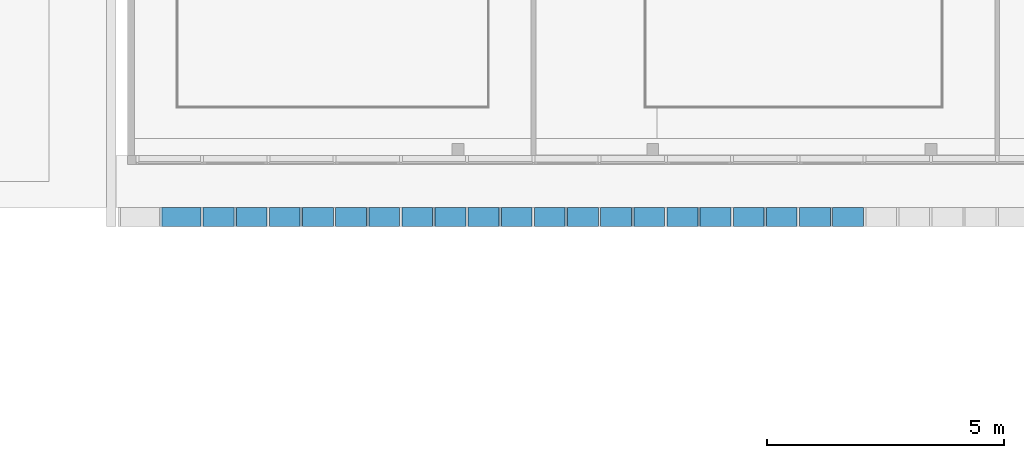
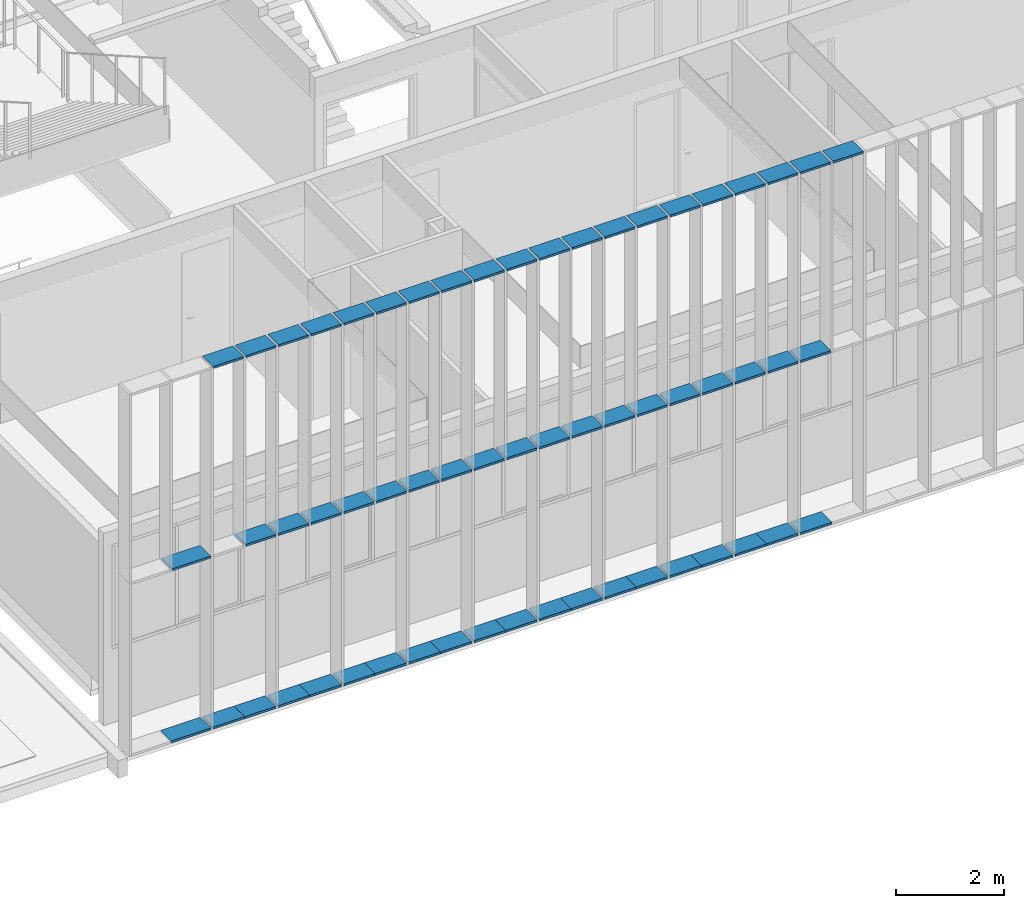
# One storey, part 23 of 106: 59 members, 1 element without a shape of its own.
"""IFC2X3 building model written with IfcOpenShell, lengths in centimetres."""

from ifc_helpers import new_model, entity, si_unit, converted_unit, derived_unit, direction, frame, origin, origin_2d_with_axis, place, context, subcontext, project, spatial, rectangle, extrude, source, transform, mapped, material, type_object, type_shapes, element, aggregate, save


model = new_model("IFC2X3")

# Units and contexts
model_context = context("Model", 3, precision=0.001, world=origin(), true_north=direction((6.12303176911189e-17, 1.0)))
body_context = subcontext(model_context, "Body", "Model", "MODEL_VIEW")
ifc_project = project(units=[si_unit("LENGTHUNIT", "METRE", prefix="CENTI"), si_unit("AREAUNIT", "SQUARE_METRE"), si_unit("VOLUMEUNIT", "CUBIC_METRE"), converted_unit("PLANEANGLEUNIT", "DEGREE", entity("IfcRatioMeasure", 0.0174532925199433), si_unit("PLANEANGLEUNIT", "RADIAN"), dimensions=[0, 0, 0, 0, 0, 0, 0]), si_unit("MASSUNIT", "GRAM", prefix="KILO"), derived_unit("MASSDENSITYUNIT", [(si_unit("MASSUNIT", "GRAM", prefix="KILO"), 1), (si_unit("LENGTHUNIT", "METRE"), -3)]), si_unit("TIMEUNIT", "SECOND"), si_unit("FREQUENCYUNIT", "HERTZ"), si_unit("THERMODYNAMICTEMPERATUREUNIT", "DEGREE_CELSIUS"), derived_unit("THERMALTRANSMITTANCEUNIT", [(si_unit("MASSUNIT", "GRAM", prefix="KILO"), 1), (si_unit("THERMODYNAMICTEMPERATUREUNIT", "KELVIN"), -1), (si_unit("TIMEUNIT", "SECOND"), -3)]), derived_unit("VOLUMETRICFLOWRATEUNIT", [(si_unit("LENGTHUNIT", "METRE"), 3), (si_unit("TIMEUNIT", "SECOND"), -1)]), si_unit("ELECTRICCURRENTUNIT", "AMPERE"), si_unit("ELECTRICVOLTAGEUNIT", "VOLT"), si_unit("POWERUNIT", "WATT"), si_unit("FORCEUNIT", "NEWTON", prefix="KILO"), si_unit("ILLUMINANCEUNIT", "LUX"), si_unit("LUMINOUSFLUXUNIT", "LUMEN"), si_unit("LUMINOUSINTENSITYUNIT", "CANDELA"), derived_unit("USERDEFINED", [(si_unit("MASSUNIT", "GRAM", prefix="KILO"), -1), (si_unit("LENGTHUNIT", "METRE"), -2), (si_unit("TIMEUNIT", "SECOND"), 3), (si_unit("LUMINOUSFLUXUNIT", "LUMEN"), 1)]), derived_unit("LINEARVELOCITYUNIT", [(si_unit("LENGTHUNIT", "METRE"), 1), (si_unit("TIMEUNIT", "SECOND"), -1)]), si_unit("PRESSUREUNIT", "PASCAL"), derived_unit("USERDEFINED", [(si_unit("LENGTHUNIT", "METRE"), -2), (si_unit("MASSUNIT", "GRAM", prefix="KILO"), 1), (si_unit("TIMEUNIT", "SECOND"), -2)])], contexts=[model_context])

# Site, building, storey
site_placement = place(None, frame((-2781.94577612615, 7442.24238424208, 0.0)))
site = spatial("IfcSite", under=ifc_project, at=site_placement, Name="Default", CompositionType="ELEMENT")
building_placement = place(site_placement, origin())
building = spatial("IfcBuilding", under=site, at=building_placement, CompositionType="ELEMENT")
storey_placement = place(building_placement, frame((0.0, 0.0, 422.0)))
storey = spatial("IfcBuildingStorey", under=building, at=storey_placement, Name="Toiture - Cuisine", CompositionType="ELEMENT", Elevation=421.999999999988)

# Curtain wall, members
curtain_wall_type = type_object("IfcCurtainWallType", Name="Mur-rideau:Epines - 400x30mm", PredefinedType="NOTDEFINED")
curtain_wall_placement = place(building_placement, origin())
curtain_wall = element("IfcCurtainWall", 1, at=curtain_wall_placement, inside=storey, type_object=curtain_wall_type, Name="Mur-rideau:Epines - 400x30mm", ObjectType="Mur-rideau:Epines - 400x30mm")
ifc_material = material(Name="Aluminium")
member_type_1 = type_object("IfcMemberType", Name="Epine sud (400x50 mm)", PredefinedType="MEMBER")
shared_shape_1 = source(origin(), body_context, "Body", "SweptSolid", [
    extrude(rectangle(XDim=40.0, YDim=5.0, at=origin_2d_with_axis()), frame((-2.5, 0.0, -65.0), z_axis=(0.0, 0.0, 1.0), x_axis=(0.0, -1.0, 0.0)), (0.0, 0.0, 1.0), 64.9999999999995),
])
type_shapes(member_type_1, [shared_shape_1])
member_1_placement = place(building_placement, frame((-4472.99987760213, -3160.31349958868, 1176.0), z_axis=(1.0, 0.0, 0.0), x_axis=(0.0, 0.0, 1.0)))
member_1 = element("IfcMember", 2, at=member_1_placement, type_object=member_type_1, material=ifc_material, Name="Meneau rectangulaire:Epine sud (400x50 mm)", ObjectType="Meneau rectangulaire:Epine sud (400x50 mm)", context=body_context, shape_type="MappedRepresentation", body=[
    mapped(shared_shape_1, transform((0.0, 0.0, 0.0), scale=1.0)),
])
member_2_placement = place(building_placement, frame((-4332.99987760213, -3160.31349958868, 1176.0), z_axis=(1.0, 0.0, 0.0), x_axis=(0.0, 0.0, 1.0)))
member_2 = element("IfcMember", 3, at=member_2_placement, type_object=member_type_1, material=ifc_material, Name="Meneau rectangulaire:Epine sud (400x50 mm)", ObjectType="Meneau rectangulaire:Epine sud (400x50 mm)", context=body_context, shape_type="MappedRepresentation", body=[
    mapped(shared_shape_1, transform((0.0, 0.0, 0.0), scale=1.0)),
])
member_3_placement = place(building_placement, frame((-4192.99987760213, -3160.31349958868, 1176.0), z_axis=(1.0, 0.0, 0.0), x_axis=(0.0, 0.0, 1.0)))
member_3 = element("IfcMember", 4, at=member_3_placement, type_object=member_type_1, material=ifc_material, Name="Meneau rectangulaire:Epine sud (400x50 mm)", ObjectType="Meneau rectangulaire:Epine sud (400x50 mm)", context=body_context, shape_type="MappedRepresentation", body=[
    mapped(shared_shape_1, transform((0.0, 0.0, 0.0), scale=1.0)),
])
member_4_placement = place(building_placement, frame((-4052.99987760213, -3160.31349958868, 1176.0), z_axis=(1.0, 0.0, 0.0), x_axis=(0.0, 0.0, 1.0)))
member_4 = element("IfcMember", 5, at=member_4_placement, type_object=member_type_1, material=ifc_material, Name="Meneau rectangulaire:Epine sud (400x50 mm)", ObjectType="Meneau rectangulaire:Epine sud (400x50 mm)", context=body_context, shape_type="MappedRepresentation", body=[
    mapped(shared_shape_1, transform((0.0, 0.0, 0.0), scale=1.0)),
])
member_5_placement = place(building_placement, frame((-3912.99987760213, -3160.31349958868, 1176.0), z_axis=(1.0, 0.0, 0.0), x_axis=(0.0, 0.0, 1.0)))
member_5 = element("IfcMember", 6, at=member_5_placement, type_object=member_type_1, material=ifc_material, Name="Meneau rectangulaire:Epine sud (400x50 mm)", ObjectType="Meneau rectangulaire:Epine sud (400x50 mm)", context=body_context, shape_type="MappedRepresentation", body=[
    mapped(shared_shape_1, transform((0.0, 0.0, 0.0), scale=1.0)),
])
member_6_placement = place(building_placement, frame((-3772.99987760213, -3160.31349958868, 1176.0), z_axis=(1.0, 0.0, 0.0), x_axis=(0.0, 0.0, 1.0)))
member_6 = element("IfcMember", 7, at=member_6_placement, type_object=member_type_1, material=ifc_material, Name="Meneau rectangulaire:Epine sud (400x50 mm)", ObjectType="Meneau rectangulaire:Epine sud (400x50 mm)", context=body_context, shape_type="MappedRepresentation", body=[
    mapped(shared_shape_1, transform((0.0, 0.0, 0.0), scale=1.0)),
])
member_7_placement = place(building_placement, frame((-3632.99987760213, -3160.31349958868, 1176.0), z_axis=(1.0, 0.0, 0.0), x_axis=(0.0, 0.0, 1.0)))
member_7 = element("IfcMember", 8, at=member_7_placement, type_object=member_type_1, material=ifc_material, Name="Meneau rectangulaire:Epine sud (400x50 mm)", ObjectType="Meneau rectangulaire:Epine sud (400x50 mm)", context=body_context, shape_type="MappedRepresentation", body=[
    mapped(shared_shape_1, transform((0.0, 0.0, 0.0), scale=1.0)),
])
member_8_placement = place(building_placement, frame((-3492.99987760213, -3160.31349958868, 1176.0), z_axis=(1.0, 0.0, 0.0), x_axis=(0.0, 0.0, 1.0)))
member_8 = element("IfcMember", 9, at=member_8_placement, type_object=member_type_1, material=ifc_material, Name="Meneau rectangulaire:Epine sud (400x50 mm)", ObjectType="Meneau rectangulaire:Epine sud (400x50 mm)", context=body_context, shape_type="MappedRepresentation", body=[
    mapped(shared_shape_1, transform((0.0, 0.0, 0.0), scale=1.0)),
])
member_9_placement = place(building_placement, frame((-3352.99987760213, -3160.31349958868, 1176.0), z_axis=(1.0, 0.0, 0.0), x_axis=(0.0, 0.0, 1.0)))
member_9 = element("IfcMember", 10, at=member_9_placement, type_object=member_type_1, material=ifc_material, Name="Meneau rectangulaire:Epine sud (400x50 mm)", ObjectType="Meneau rectangulaire:Epine sud (400x50 mm)", context=body_context, shape_type="MappedRepresentation", body=[
    mapped(shared_shape_1, transform((0.0, 0.0, 0.0), scale=1.0)),
])
member_10_placement = place(building_placement, frame((-3212.99987760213, -3160.31349958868, 1176.0), z_axis=(1.0, 0.0, 0.0), x_axis=(0.0, 0.0, 1.0)))
member_10 = element("IfcMember", 11, at=member_10_placement, type_object=member_type_1, material=ifc_material, Name="Meneau rectangulaire:Epine sud (400x50 mm)", ObjectType="Meneau rectangulaire:Epine sud (400x50 mm)", context=body_context, shape_type="MappedRepresentation", body=[
    mapped(shared_shape_1, transform((0.0, 0.0, 0.0), scale=1.0)),
])
member_11_placement = place(building_placement, frame((-4542.99987760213, -3160.31349958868, 1176.0), z_axis=(1.0, 0.0, 0.0), x_axis=(0.0, 0.0, 1.0)))
member_11 = element("IfcMember", 12, at=member_11_placement, type_object=member_type_1, material=ifc_material, Name="Meneau rectangulaire:Epine sud (400x50 mm)", ObjectType="Meneau rectangulaire:Epine sud (400x50 mm)", context=body_context, shape_type="MappedRepresentation", body=[
    mapped(shared_shape_1, transform((0.0, 0.0, 0.0), scale=1.0)),
])
member_12_placement = place(building_placement, frame((-4402.99987760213, -3160.31349958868, 1176.0), z_axis=(1.0, 0.0, 0.0), x_axis=(0.0, 0.0, 1.0)))
member_12 = element("IfcMember", 13, at=member_12_placement, type_object=member_type_1, material=ifc_material, Name="Meneau rectangulaire:Epine sud (400x50 mm)", ObjectType="Meneau rectangulaire:Epine sud (400x50 mm)", context=body_context, shape_type="MappedRepresentation", body=[
    mapped(shared_shape_1, transform((0.0, 0.0, 0.0), scale=1.0)),
])
member_13_placement = place(building_placement, frame((-4262.99987760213, -3160.31349958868, 1176.0), z_axis=(1.0, 0.0, 0.0), x_axis=(0.0, 0.0, 1.0)))
member_13 = element("IfcMember", 14, at=member_13_placement, type_object=member_type_1, material=ifc_material, Name="Meneau rectangulaire:Epine sud (400x50 mm)", ObjectType="Meneau rectangulaire:Epine sud (400x50 mm)", context=body_context, shape_type="MappedRepresentation", body=[
    mapped(shared_shape_1, transform((0.0, 0.0, 0.0), scale=1.0)),
])
member_14_placement = place(building_placement, frame((-4122.99987760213, -3160.31349958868, 1176.0), z_axis=(1.0, 0.0, 0.0), x_axis=(0.0, 0.0, 1.0)))
member_14 = element("IfcMember", 15, at=member_14_placement, type_object=member_type_1, material=ifc_material, Name="Meneau rectangulaire:Epine sud (400x50 mm)", ObjectType="Meneau rectangulaire:Epine sud (400x50 mm)", context=body_context, shape_type="MappedRepresentation", body=[
    mapped(shared_shape_1, transform((0.0, 0.0, 0.0), scale=1.0)),
])
member_15_placement = place(building_placement, frame((-3982.99987760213, -3160.31349958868, 1176.0), z_axis=(1.0, 0.0, 0.0), x_axis=(0.0, 0.0, 1.0)))
member_15 = element("IfcMember", 16, at=member_15_placement, type_object=member_type_1, material=ifc_material, Name="Meneau rectangulaire:Epine sud (400x50 mm)", ObjectType="Meneau rectangulaire:Epine sud (400x50 mm)", context=body_context, shape_type="MappedRepresentation", body=[
    mapped(shared_shape_1, transform((0.0, 0.0, 0.0), scale=1.0)),
])
member_16_placement = place(building_placement, frame((-3842.99987760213, -3160.31349958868, 1176.0), z_axis=(1.0, 0.0, 0.0), x_axis=(0.0, 0.0, 1.0)))
member_16 = element("IfcMember", 17, at=member_16_placement, type_object=member_type_1, material=ifc_material, Name="Meneau rectangulaire:Epine sud (400x50 mm)", ObjectType="Meneau rectangulaire:Epine sud (400x50 mm)", context=body_context, shape_type="MappedRepresentation", body=[
    mapped(shared_shape_1, transform((0.0, 0.0, 0.0), scale=1.0)),
])
member_17_placement = place(building_placement, frame((-3702.99987760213, -3160.31349958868, 1176.0), z_axis=(1.0, 0.0, 0.0), x_axis=(0.0, 0.0, 1.0)))
member_17 = element("IfcMember", 18, at=member_17_placement, type_object=member_type_1, material=ifc_material, Name="Meneau rectangulaire:Epine sud (400x50 mm)", ObjectType="Meneau rectangulaire:Epine sud (400x50 mm)", context=body_context, shape_type="MappedRepresentation", body=[
    mapped(shared_shape_1, transform((0.0, 0.0, 0.0), scale=1.0)),
])
member_18_placement = place(building_placement, frame((-3562.99987760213, -3160.31349958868, 1176.0), z_axis=(1.0, 0.0, 0.0), x_axis=(0.0, 0.0, 1.0)))
member_18 = element("IfcMember", 19, at=member_18_placement, type_object=member_type_1, material=ifc_material, Name="Meneau rectangulaire:Epine sud (400x50 mm)", ObjectType="Meneau rectangulaire:Epine sud (400x50 mm)", context=body_context, shape_type="MappedRepresentation", body=[
    mapped(shared_shape_1, transform((0.0, 0.0, 0.0), scale=1.0)),
])
member_19_placement = place(building_placement, frame((-3422.99987760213, -3160.31349958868, 1176.0), z_axis=(1.0, 0.0, 0.0), x_axis=(0.0, 0.0, 1.0)))
member_19 = element("IfcMember", 20, at=member_19_placement, type_object=member_type_1, material=ifc_material, Name="Meneau rectangulaire:Epine sud (400x50 mm)", ObjectType="Meneau rectangulaire:Epine sud (400x50 mm)", context=body_context, shape_type="MappedRepresentation", body=[
    mapped(shared_shape_1, transform((0.0, 0.0, 0.0), scale=1.0)),
])
member_20_placement = place(building_placement, frame((-3282.99987760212, -3160.31349958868, 1176.0), z_axis=(1.0, 0.0, 0.0), x_axis=(0.0, 0.0, 1.0)))
member_20 = element("IfcMember", 21, at=member_20_placement, type_object=member_type_1, material=ifc_material, Name="Meneau rectangulaire:Epine sud (400x50 mm)", ObjectType="Meneau rectangulaire:Epine sud (400x50 mm)", context=body_context, shape_type="MappedRepresentation", body=[
    mapped(shared_shape_1, transform((0.0, 0.0, 0.0), scale=1.0)),
])
member_type_2 = type_object("IfcMemberType", Name="Epine sud (400x50 mm)", PredefinedType="MEMBER")
shared_shape_2 = source(origin(), body_context, "Body", "SweptSolid", [
    extrude(rectangle(XDim=40.0, YDim=5.0, at=origin_2d_with_axis()), frame((-2.5, 0.0, -67.4999999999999), z_axis=(0.0, 0.0, 1.0), x_axis=(0.0, -1.0, 0.0)), (0.0, 0.0, 1.0), 67.5000000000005),
])
type_shapes(member_type_2, [shared_shape_2])
member_21_placement = place(building_placement, frame((-4467.99987760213, -3160.31349958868, 353.0), z_axis=(-1.0, 0.0, 0.0), x_axis=(0.0, 0.0, -1.0)))
member_21 = element("IfcMember", 22, at=member_21_placement, type_object=member_type_2, material=ifc_material, Name="Meneau rectangulaire:Epine sud (400x50 mm)", ObjectType="Meneau rectangulaire:Epine sud (400x50 mm)", context=body_context, shape_type="MappedRepresentation", body=[
    mapped(shared_shape_2, transform((0.0, 0.0, 0.0), scale=1.0)),
])
member_22_placement = place(building_placement, frame((-4327.99987760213, -3160.31349958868, 353.0), z_axis=(-1.0, 0.0, 0.0), x_axis=(0.0, 0.0, -1.0)))
member_22 = element("IfcMember", 23, at=member_22_placement, type_object=member_type_2, material=ifc_material, Name="Meneau rectangulaire:Epine sud (400x50 mm)", ObjectType="Meneau rectangulaire:Epine sud (400x50 mm)", context=body_context, shape_type="MappedRepresentation", body=[
    mapped(shared_shape_2, transform((0.0, 0.0, 0.0), scale=1.0)),
])
member_23_placement = place(building_placement, frame((-4187.99987760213, -3160.31349958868, 353.0), z_axis=(-1.0, 0.0, 0.0), x_axis=(0.0, 0.0, -1.0)))
member_23 = element("IfcMember", 24, at=member_23_placement, type_object=member_type_2, material=ifc_material, Name="Meneau rectangulaire:Epine sud (400x50 mm)", ObjectType="Meneau rectangulaire:Epine sud (400x50 mm)", context=body_context, shape_type="MappedRepresentation", body=[
    mapped(shared_shape_2, transform((0.0, 0.0, 0.0), scale=1.0)),
])
member_24_placement = place(building_placement, frame((-4047.99987760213, -3160.31349958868, 353.0), z_axis=(-1.0, 0.0, 0.0), x_axis=(0.0, 0.0, -1.0)))
member_24 = element("IfcMember", 25, at=member_24_placement, type_object=member_type_2, material=ifc_material, Name="Meneau rectangulaire:Epine sud (400x50 mm)", ObjectType="Meneau rectangulaire:Epine sud (400x50 mm)", context=body_context, shape_type="MappedRepresentation", body=[
    mapped(shared_shape_2, transform((0.0, 0.0, 0.0), scale=1.0)),
])
member_25_placement = place(building_placement, frame((-3907.99987760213, -3160.31349958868, 353.0), z_axis=(-1.0, 0.0, 0.0), x_axis=(0.0, 0.0, -1.0)))
member_25 = element("IfcMember", 26, at=member_25_placement, type_object=member_type_2, material=ifc_material, Name="Meneau rectangulaire:Epine sud (400x50 mm)", ObjectType="Meneau rectangulaire:Epine sud (400x50 mm)", context=body_context, shape_type="MappedRepresentation", body=[
    mapped(shared_shape_2, transform((0.0, 0.0, 0.0), scale=1.0)),
])
member_26_placement = place(building_placement, frame((-3767.99987760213, -3160.31349958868, 353.0), z_axis=(-1.0, 0.0, 0.0), x_axis=(0.0, 0.0, -1.0)))
member_26 = element("IfcMember", 27, at=member_26_placement, type_object=member_type_2, material=ifc_material, Name="Meneau rectangulaire:Epine sud (400x50 mm)", ObjectType="Meneau rectangulaire:Epine sud (400x50 mm)", context=body_context, shape_type="MappedRepresentation", body=[
    mapped(shared_shape_2, transform((0.0, 0.0, 0.0), scale=1.0)),
])
member_27_placement = place(building_placement, frame((-4607.99987760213, -3160.31349958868, 353.0), z_axis=(-1.0, 0.0, 0.0), x_axis=(0.0, 0.0, -1.0)))
member_27 = element("IfcMember", 28, at=member_27_placement, type_object=member_type_2, material=ifc_material, Name="Meneau rectangulaire:Epine sud (400x50 mm)", ObjectType="Meneau rectangulaire:Epine sud (400x50 mm)", context=body_context, shape_type="MappedRepresentation", body=[
    mapped(shared_shape_2, transform((0.0, 0.0, 0.0), scale=1.0)),
])
member_28_placement = place(building_placement, frame((-3627.99987760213, -3160.31349958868, 353.0), z_axis=(-1.0, 0.0, 0.0), x_axis=(0.0, 0.0, -1.0)))
member_28 = element("IfcMember", 29, at=member_28_placement, type_object=member_type_2, material=ifc_material, Name="Meneau rectangulaire:Epine sud (400x50 mm)", ObjectType="Meneau rectangulaire:Epine sud (400x50 mm)", context=body_context, shape_type="MappedRepresentation", body=[
    mapped(shared_shape_2, transform((0.0, 0.0, 0.0), scale=1.0)),
])
member_29_placement = place(building_placement, frame((-3487.99987760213, -3160.31349958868, 353.0), z_axis=(-1.0, 0.0, 0.0), x_axis=(0.0, 0.0, -1.0)))
member_29 = element("IfcMember", 30, at=member_29_placement, type_object=member_type_2, material=ifc_material, Name="Meneau rectangulaire:Epine sud (400x50 mm)", ObjectType="Meneau rectangulaire:Epine sud (400x50 mm)", context=body_context, shape_type="MappedRepresentation", body=[
    mapped(shared_shape_2, transform((0.0, 0.0, 0.0), scale=1.0)),
])
member_30_placement = place(building_placement, frame((-3347.99987760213, -3160.31349958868, 353.0), z_axis=(-1.0, 0.0, 0.0), x_axis=(0.0, 0.0, -1.0)))
member_30 = element("IfcMember", 31, at=member_30_placement, type_object=member_type_2, material=ifc_material, Name="Meneau rectangulaire:Epine sud (400x50 mm)", ObjectType="Meneau rectangulaire:Epine sud (400x50 mm)", context=body_context, shape_type="MappedRepresentation", body=[
    mapped(shared_shape_2, transform((0.0, 0.0, 0.0), scale=1.0)),
])
member_type_3 = type_object("IfcMemberType", Name="Epine sud (400x50 mm)", PredefinedType="MEMBER")
shared_shape_3 = source(origin(), body_context, "Body", "SweptSolid", [
    extrude(rectangle(XDim=40.0, YDim=5.0, at=origin_2d_with_axis()), frame((0.0, 0.0, -82.5000000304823), z_axis=(0.0, 0.0, 1.0), x_axis=(0.0, -1.0, 0.0)), (0.0, 0.0, 1.0), 82.5000000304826),
])
type_shapes(member_type_3, [shared_shape_3])
member_31_placement = place(building_placement, frame((-4612.99987760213, -3160.31349958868, 745.5), z_axis=(1.0, 0.0, 0.0), x_axis=(0.0, 0.0, 1.0)))
member_31 = element("IfcMember", 32, at=member_31_placement, type_object=member_type_3, material=ifc_material, Name="Meneau rectangulaire:Epine sud (400x50 mm)", ObjectType="Meneau rectangulaire:Epine sud (400x50 mm)", context=body_context, shape_type="MappedRepresentation", body=[
    mapped(shared_shape_3, transform((0.0, 0.0, 0.0), scale=1.0)),
])
member_type_4 = type_object("IfcMemberType", Name="Epine sud (400x50 mm)", PredefinedType="MEMBER")
shared_shape_4 = source(origin(), body_context, "Body", "SweptSolid", [
    extrude(rectangle(XDim=40.0, YDim=5.0, at=origin_2d_with_axis()), frame((0.0, 0.0, -65.0), z_axis=(0.0, 0.0, 1.0), x_axis=(0.0, -1.0, 0.0)), (0.0, 0.0, 1.0), 65.0000000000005),
])
type_shapes(member_type_4, [shared_shape_4])
member_32_placement = place(building_placement, frame((-4402.99987760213, -3160.31349958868, 745.5), z_axis=(1.0, 0.0, 0.0), x_axis=(0.0, 0.0, 1.0)))
member_32 = element("IfcMember", 33, at=member_32_placement, type_object=member_type_4, material=ifc_material, Name="Meneau rectangulaire:Epine sud (400x50 mm)", ObjectType="Meneau rectangulaire:Epine sud (400x50 mm)", context=body_context, shape_type="MappedRepresentation", body=[
    mapped(shared_shape_4, transform((0.0, 0.0, 0.0), scale=1.0)),
])
member_33_placement = place(building_placement, frame((-4262.99987760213, -3160.31349958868, 745.5), z_axis=(1.0, 0.0, 0.0), x_axis=(0.0, 0.0, 1.0)))
member_33 = element("IfcMember", 34, at=member_33_placement, type_object=member_type_4, material=ifc_material, Name="Meneau rectangulaire:Epine sud (400x50 mm)", ObjectType="Meneau rectangulaire:Epine sud (400x50 mm)", context=body_context, shape_type="MappedRepresentation", body=[
    mapped(shared_shape_4, transform((0.0, 0.0, 0.0), scale=1.0)),
])
member_34_placement = place(building_placement, frame((-4122.99987760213, -3160.31349958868, 745.5), z_axis=(1.0, 0.0, 0.0), x_axis=(0.0, 0.0, 1.0)))
member_34 = element("IfcMember", 35, at=member_34_placement, type_object=member_type_4, material=ifc_material, Name="Meneau rectangulaire:Epine sud (400x50 mm)", ObjectType="Meneau rectangulaire:Epine sud (400x50 mm)", context=body_context, shape_type="MappedRepresentation", body=[
    mapped(shared_shape_4, transform((0.0, 0.0, 0.0), scale=1.0)),
])
member_35_placement = place(building_placement, frame((-3982.99987760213, -3160.31349958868, 745.5), z_axis=(1.0, 0.0, 0.0), x_axis=(0.0, 0.0, 1.0)))
member_35 = element("IfcMember", 36, at=member_35_placement, type_object=member_type_4, material=ifc_material, Name="Meneau rectangulaire:Epine sud (400x50 mm)", ObjectType="Meneau rectangulaire:Epine sud (400x50 mm)", context=body_context, shape_type="MappedRepresentation", body=[
    mapped(shared_shape_4, transform((0.0, 0.0, 0.0), scale=1.0)),
])
member_36_placement = place(building_placement, frame((-3842.99987760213, -3160.31349958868, 745.5), z_axis=(1.0, 0.0, 0.0), x_axis=(0.0, 0.0, 1.0)))
member_36 = element("IfcMember", 37, at=member_36_placement, type_object=member_type_4, material=ifc_material, Name="Meneau rectangulaire:Epine sud (400x50 mm)", ObjectType="Meneau rectangulaire:Epine sud (400x50 mm)", context=body_context, shape_type="MappedRepresentation", body=[
    mapped(shared_shape_4, transform((0.0, 0.0, 0.0), scale=1.0)),
])
member_37_placement = place(building_placement, frame((-3702.99987760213, -3160.31349958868, 745.5), z_axis=(1.0, 0.0, 0.0), x_axis=(0.0, 0.0, 1.0)))
member_37 = element("IfcMember", 38, at=member_37_placement, type_object=member_type_4, material=ifc_material, Name="Meneau rectangulaire:Epine sud (400x50 mm)", ObjectType="Meneau rectangulaire:Epine sud (400x50 mm)", context=body_context, shape_type="MappedRepresentation", body=[
    mapped(shared_shape_4, transform((0.0, 0.0, 0.0), scale=1.0)),
])
member_38_placement = place(building_placement, frame((-3562.99987760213, -3160.31349958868, 745.5), z_axis=(1.0, 0.0, 0.0), x_axis=(0.0, 0.0, 1.0)))
member_38 = element("IfcMember", 39, at=member_38_placement, type_object=member_type_4, material=ifc_material, Name="Meneau rectangulaire:Epine sud (400x50 mm)", ObjectType="Meneau rectangulaire:Epine sud (400x50 mm)", context=body_context, shape_type="MappedRepresentation", body=[
    mapped(shared_shape_4, transform((0.0, 0.0, 0.0), scale=1.0)),
])
member_39_placement = place(building_placement, frame((-3422.99987760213, -3160.31349958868, 745.5), z_axis=(1.0, 0.0, 0.0), x_axis=(0.0, 0.0, 1.0)))
member_39 = element("IfcMember", 40, at=member_39_placement, type_object=member_type_4, material=ifc_material, Name="Meneau rectangulaire:Epine sud (400x50 mm)", ObjectType="Meneau rectangulaire:Epine sud (400x50 mm)", context=body_context, shape_type="MappedRepresentation", body=[
    mapped(shared_shape_4, transform((0.0, 0.0, 0.0), scale=1.0)),
])
member_40_placement = place(building_placement, frame((-3282.99987760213, -3160.31349958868, 745.5), z_axis=(1.0, 0.0, 0.0), x_axis=(0.0, 0.0, 1.0)))
member_40 = element("IfcMember", 41, at=member_40_placement, type_object=member_type_4, material=ifc_material, Name="Meneau rectangulaire:Epine sud (400x50 mm)", ObjectType="Meneau rectangulaire:Epine sud (400x50 mm)", context=body_context, shape_type="MappedRepresentation", body=[
    mapped(shared_shape_4, transform((0.0, 0.0, 0.0), scale=1.0)),
])
member_41_placement = place(building_placement, frame((-4472.99987760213, -3160.31349958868, 745.5), z_axis=(1.0, 0.0, 0.0), x_axis=(0.0, 0.0, 1.0)))
member_41 = element("IfcMember", 42, at=member_41_placement, type_object=member_type_4, material=ifc_material, Name="Meneau rectangulaire:Epine sud (400x50 mm)", ObjectType="Meneau rectangulaire:Epine sud (400x50 mm)", context=body_context, shape_type="MappedRepresentation", body=[
    mapped(shared_shape_4, transform((0.0, 0.0, 0.0), scale=1.0)),
])
member_42_placement = place(building_placement, frame((-4332.99987760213, -3160.31349958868, 745.5), z_axis=(1.0, 0.0, 0.0), x_axis=(0.0, 0.0, 1.0)))
member_42 = element("IfcMember", 43, at=member_42_placement, type_object=member_type_4, material=ifc_material, Name="Meneau rectangulaire:Epine sud (400x50 mm)", ObjectType="Meneau rectangulaire:Epine sud (400x50 mm)", context=body_context, shape_type="MappedRepresentation", body=[
    mapped(shared_shape_4, transform((0.0, 0.0, 0.0), scale=1.0)),
])
member_43_placement = place(building_placement, frame((-4192.99987760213, -3160.31349958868, 745.5), z_axis=(1.0, 0.0, 0.0), x_axis=(0.0, 0.0, 1.0)))
member_43 = element("IfcMember", 44, at=member_43_placement, type_object=member_type_4, material=ifc_material, Name="Meneau rectangulaire:Epine sud (400x50 mm)", ObjectType="Meneau rectangulaire:Epine sud (400x50 mm)", context=body_context, shape_type="MappedRepresentation", body=[
    mapped(shared_shape_4, transform((0.0, 0.0, 0.0), scale=1.0)),
])
member_44_placement = place(building_placement, frame((-4052.99987760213, -3160.31349958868, 745.5), z_axis=(1.0, 0.0, 0.0), x_axis=(0.0, 0.0, 1.0)))
member_44 = element("IfcMember", 45, at=member_44_placement, type_object=member_type_4, material=ifc_material, Name="Meneau rectangulaire:Epine sud (400x50 mm)", ObjectType="Meneau rectangulaire:Epine sud (400x50 mm)", context=body_context, shape_type="MappedRepresentation", body=[
    mapped(shared_shape_4, transform((0.0, 0.0, 0.0), scale=1.0)),
])
member_45_placement = place(building_placement, frame((-3912.99987760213, -3160.31349958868, 745.5), z_axis=(1.0, 0.0, 0.0), x_axis=(0.0, 0.0, 1.0)))
member_45 = element("IfcMember", 46, at=member_45_placement, type_object=member_type_4, material=ifc_material, Name="Meneau rectangulaire:Epine sud (400x50 mm)", ObjectType="Meneau rectangulaire:Epine sud (400x50 mm)", context=body_context, shape_type="MappedRepresentation", body=[
    mapped(shared_shape_4, transform((0.0, 0.0, 0.0), scale=1.0)),
])
member_46_placement = place(building_placement, frame((-3772.99987760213, -3160.31349958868, 745.5), z_axis=(1.0, 0.0, 0.0), x_axis=(0.0, 0.0, 1.0)))
member_46 = element("IfcMember", 47, at=member_46_placement, type_object=member_type_4, material=ifc_material, Name="Meneau rectangulaire:Epine sud (400x50 mm)", ObjectType="Meneau rectangulaire:Epine sud (400x50 mm)", context=body_context, shape_type="MappedRepresentation", body=[
    mapped(shared_shape_4, transform((0.0, 0.0, 0.0), scale=1.0)),
])
member_47_placement = place(building_placement, frame((-3632.99987760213, -3160.31349958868, 745.5), z_axis=(1.0, 0.0, 0.0), x_axis=(0.0, 0.0, 1.0)))
member_47 = element("IfcMember", 48, at=member_47_placement, type_object=member_type_4, material=ifc_material, Name="Meneau rectangulaire:Epine sud (400x50 mm)", ObjectType="Meneau rectangulaire:Epine sud (400x50 mm)", context=body_context, shape_type="MappedRepresentation", body=[
    mapped(shared_shape_4, transform((0.0, 0.0, 0.0), scale=1.0)),
])
member_48_placement = place(building_placement, frame((-3492.99987760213, -3160.31349958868, 745.5), z_axis=(1.0, 0.0, 0.0), x_axis=(0.0, 0.0, 1.0)))
member_48 = element("IfcMember", 49, at=member_48_placement, type_object=member_type_4, material=ifc_material, Name="Meneau rectangulaire:Epine sud (400x50 mm)", ObjectType="Meneau rectangulaire:Epine sud (400x50 mm)", context=body_context, shape_type="MappedRepresentation", body=[
    mapped(shared_shape_4, transform((0.0, 0.0, 0.0), scale=1.0)),
])
member_49_placement = place(building_placement, frame((-3352.99987760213, -3160.31349958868, 745.5), z_axis=(1.0, 0.0, 0.0), x_axis=(0.0, 0.0, 1.0)))
member_49 = element("IfcMember", 50, at=member_49_placement, type_object=member_type_4, material=ifc_material, Name="Meneau rectangulaire:Epine sud (400x50 mm)", ObjectType="Meneau rectangulaire:Epine sud (400x50 mm)", context=body_context, shape_type="MappedRepresentation", body=[
    mapped(shared_shape_4, transform((0.0, 0.0, 0.0), scale=1.0)),
])
member_type_5 = type_object("IfcMemberType", Name="Epine sud (400x50 mm)", PredefinedType="MEMBER")
shared_shape_5 = source(origin(), body_context, "Body", "SweptSolid", [
    extrude(rectangle(XDim=40.0, YDim=5.0, at=origin_2d_with_axis()), frame((-2.5, 0.0, -85.0), z_axis=(0.0, 0.0, 1.0), x_axis=(0.0, -1.0, 0.0)), (0.0, 0.0, 1.0), 84.999999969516),
])
type_shapes(member_type_5, [shared_shape_5])
member_50_placement = place(building_placement, frame((-4697.99987757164, -3160.31349958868, 353.0), z_axis=(-1.0, 0.0, 0.0), x_axis=(0.0, 0.0, -1.0)))
member_50 = element("IfcMember", 51, at=member_50_placement, type_object=member_type_5, material=ifc_material, Name="Meneau rectangulaire:Epine sud (400x50 mm)", ObjectType="Meneau rectangulaire:Epine sud (400x50 mm)", context=body_context, shape_type="MappedRepresentation", body=[
    mapped(shared_shape_5, transform((0.0, 0.0, 0.0), scale=1.0)),
])
member_type_6 = type_object("IfcMemberType", Name="Epine sud (400x50 mm)", PredefinedType="MEMBER")
shared_shape_6 = source(origin(), body_context, "Body", "SweptSolid", [
    extrude(rectangle(XDim=40.0, YDim=5.0, at=origin_2d_with_axis()), frame((-2.5, 0.0, -67.4999999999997), z_axis=(0.0, 0.0, 1.0), x_axis=(0.0, -1.0, 0.0)), (0.0, 0.0, 1.0), 67.4999999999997),
])
type_shapes(member_type_6, [shared_shape_6])
member_51_placement = place(building_placement, frame((-4540.49987760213, -3160.31349958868, 353.0), z_axis=(-1.0, 0.0, 0.0), x_axis=(0.0, 0.0, -1.0)))
member_51 = element("IfcMember", 52, at=member_51_placement, type_object=member_type_6, material=ifc_material, Name="Meneau rectangulaire:Epine sud (400x50 mm)", ObjectType="Meneau rectangulaire:Epine sud (400x50 mm)", context=body_context, shape_type="MappedRepresentation", body=[
    mapped(shared_shape_6, transform((0.0, 0.0, 0.0), scale=1.0)),
])
member_52_placement = place(building_placement, frame((-4400.49987760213, -3160.31349958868, 353.0), z_axis=(-1.0, 0.0, 0.0), x_axis=(0.0, 0.0, -1.0)))
member_52 = element("IfcMember", 53, at=member_52_placement, type_object=member_type_6, material=ifc_material, Name="Meneau rectangulaire:Epine sud (400x50 mm)", ObjectType="Meneau rectangulaire:Epine sud (400x50 mm)", context=body_context, shape_type="MappedRepresentation", body=[
    mapped(shared_shape_6, transform((0.0, 0.0, 0.0), scale=1.0)),
])
member_53_placement = place(building_placement, frame((-4260.49987760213, -3160.31349958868, 353.0), z_axis=(-1.0, 0.0, 0.0), x_axis=(0.0, 0.0, -1.0)))
member_53 = element("IfcMember", 54, at=member_53_placement, type_object=member_type_6, material=ifc_material, Name="Meneau rectangulaire:Epine sud (400x50 mm)", ObjectType="Meneau rectangulaire:Epine sud (400x50 mm)", context=body_context, shape_type="MappedRepresentation", body=[
    mapped(shared_shape_6, transform((0.0, 0.0, 0.0), scale=1.0)),
])
member_54_placement = place(building_placement, frame((-4120.49987760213, -3160.31349958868, 353.0), z_axis=(-1.0, 0.0, 0.0), x_axis=(0.0, 0.0, -1.0)))
member_54 = element("IfcMember", 55, at=member_54_placement, type_object=member_type_6, material=ifc_material, Name="Meneau rectangulaire:Epine sud (400x50 mm)", ObjectType="Meneau rectangulaire:Epine sud (400x50 mm)", context=body_context, shape_type="MappedRepresentation", body=[
    mapped(shared_shape_6, transform((0.0, 0.0, 0.0), scale=1.0)),
])
member_55_placement = place(building_placement, frame((-3980.49987760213, -3160.31349958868, 353.0), z_axis=(-1.0, 0.0, 0.0), x_axis=(0.0, 0.0, -1.0)))
member_55 = element("IfcMember", 56, at=member_55_placement, type_object=member_type_6, material=ifc_material, Name="Meneau rectangulaire:Epine sud (400x50 mm)", ObjectType="Meneau rectangulaire:Epine sud (400x50 mm)", context=body_context, shape_type="MappedRepresentation", body=[
    mapped(shared_shape_6, transform((0.0, 0.0, 0.0), scale=1.0)),
])
member_56_placement = place(building_placement, frame((-3840.49987760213, -3160.31349958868, 353.0), z_axis=(-1.0, 0.0, 0.0), x_axis=(0.0, 0.0, -1.0)))
member_56 = element("IfcMember", 57, at=member_56_placement, type_object=member_type_6, material=ifc_material, Name="Meneau rectangulaire:Epine sud (400x50 mm)", ObjectType="Meneau rectangulaire:Epine sud (400x50 mm)", context=body_context, shape_type="MappedRepresentation", body=[
    mapped(shared_shape_6, transform((0.0, 0.0, 0.0), scale=1.0)),
])
member_57_placement = place(building_placement, frame((-3700.49987760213, -3160.31349958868, 353.0), z_axis=(-1.0, 0.0, 0.0), x_axis=(0.0, 0.0, -1.0)))
member_57 = element("IfcMember", 58, at=member_57_placement, type_object=member_type_6, material=ifc_material, Name="Meneau rectangulaire:Epine sud (400x50 mm)", ObjectType="Meneau rectangulaire:Epine sud (400x50 mm)", context=body_context, shape_type="MappedRepresentation", body=[
    mapped(shared_shape_6, transform((0.0, 0.0, 0.0), scale=1.0)),
])
member_58_placement = place(building_placement, frame((-3560.49987760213, -3160.31349958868, 353.0), z_axis=(-1.0, 0.0, 0.0), x_axis=(0.0, 0.0, -1.0)))
member_58 = element("IfcMember", 59, at=member_58_placement, type_object=member_type_6, material=ifc_material, Name="Meneau rectangulaire:Epine sud (400x50 mm)", ObjectType="Meneau rectangulaire:Epine sud (400x50 mm)", context=body_context, shape_type="MappedRepresentation", body=[
    mapped(shared_shape_6, transform((0.0, 0.0, 0.0), scale=1.0)),
])
member_59_placement = place(building_placement, frame((-3420.49987760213, -3160.31349958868, 353.0), z_axis=(-1.0, 0.0, 0.0), x_axis=(0.0, 0.0, -1.0)))
member_59 = element("IfcMember", 60, at=member_59_placement, type_object=member_type_6, material=ifc_material, Name="Meneau rectangulaire:Epine sud (400x50 mm)", ObjectType="Meneau rectangulaire:Epine sud (400x50 mm)", context=body_context, shape_type="MappedRepresentation", body=[
    mapped(shared_shape_6, transform((0.0, 0.0, 0.0), scale=1.0)),
])
aggregate(curtain_wall, [member_1, member_21, member_2, member_22, member_3, member_23, member_4, member_24, member_5, member_25, member_6, member_26, member_27, member_32, member_33, member_34, member_35, member_36, member_37, member_7, member_28, member_38, member_8, member_29, member_39, member_9, member_30, member_40, member_10, member_50, member_31, member_11, member_51, member_41, member_12, member_52, member_42, member_13, member_53, member_43, member_14, member_54, member_44, member_15, member_55, member_45, member_16, member_56, member_46, member_17, member_57, member_47, member_18, member_58, member_48, member_19, member_59, member_49, member_20])

save(model, "model.ifc")
